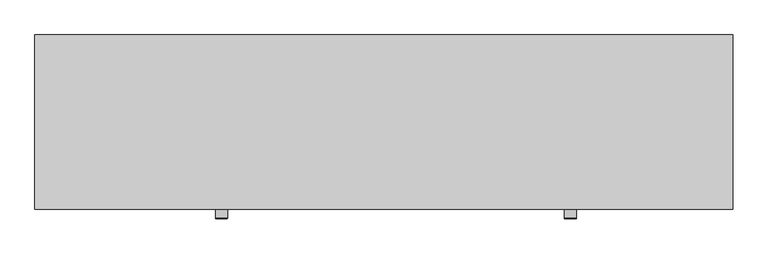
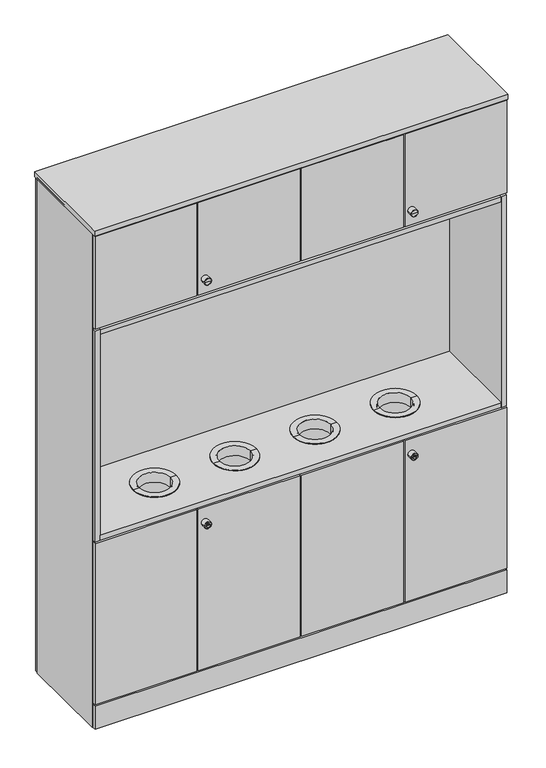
"""IFC4 building model written with IfcOpenShell, lengths in millimetres: furniture geometry, Furniture_Storage_Spacestor_SignatureStoragewall : Recyclepoint Double."""

from ifc_helpers import new_model, si_unit, point, frame, frame_2d, origin, origin_with_axes, place, context, project, spatial, polyline, circle_curve, ellipse_curve, trimmed, segment, composite_curve, outline, extrude, source, transform, mapped, element, save
from ifc_brep_helpers import plane_surface, cylinder_surface, revolved_surface, advanced_brep


def furniture_1b5e50f1(model_context):
    return source(origin(), model_context, "Body", "SolidModel", [
        extrude(outline(polyline([(1996.5, 459.0), (3.5, 459.0), (3.5, 477.0), (1996.5, 477.0), (1996.5, 459.0)])), origin_with_axes(), (0.0, 0.0, 1.0), 2518.0),
        extrude(outline(polyline([(1996.5, -18.0), (3.5, -18.0), (3.5, 0.0), (1996.5, 0.0), (1996.5, -18.0)])), origin_with_axes(), (0.0, 0.0, 1.0), 118.0),
        extrude(outline(polyline([(2000.0, -20.5), (0.0, -20.5), (0.0, 479.5), (2000.0, 479.5), (2000.0, -20.5)])), frame((0.0, 0.0, 2525.0), z_axis=(0.0, 0.0, 1.0), x_axis=(1.0, 0.0, 0.0)), (0.0, 0.0, 1.0), 25.5),
        extrude(outline(polyline([(2000.0, 0.0), (1989.0, 0.0), (1989.0, 459.0), (2000.0, 459.0), (2000.0, 0.0)])), origin_with_axes(), (0.0, 0.0, 1.0), 2532.5),
        extrude(outline(polyline([(11.0, 0.0), (0.0, 0.0), (0.0, 459.0), (11.0, 459.0), (11.0, 0.0)])), origin_with_axes(), (0.0, 0.0, 1.0), 2532.5),
        extrude(outline(polyline([(1989.0, 0.0), (11.0, 0.0), (11.0, 30.0), (1989.0, 30.0), (1989.0, 0.0)])), frame((0.0, 0.0, 942.5), z_axis=(0.0, 0.0, 1.0), x_axis=(1.0, 0.0, 0.0)), (0.0, 0.0, 1.0), 22.0),
        extrude(outline(polyline([(1003.5, -18.0), (1003.5, 0.0), (1496.5, 0.0), (1496.5, -18.0), (1003.5, -18.0)])), frame((0.0, 0.0, 125.0), z_axis=(0.0, 0.0, 1.0), x_axis=(1.0, 0.0, 0.0)), (0.0, 0.0, 1.0), 825.0),
        extrude(outline(polyline([(1996.5, -18.0), (1503.5, -18.0), (1503.5, 0.0), (1996.5, 0.0), (1996.5, -18.0)])), frame((0.0, 0.0, 125.0), z_axis=(0.0, 0.0, 1.0), x_axis=(1.0, 0.0, 0.0)), (0.0, 0.0, 1.0), 825.0),
        advanced_brep(
        [(1552.0, -45.3116344, 875.0), (1518.0, -45.3116344, 875.0), (1518.0, -18.0, 875.0), (1552.0, -18.0, 875.0), (1535.0, -18.0, 875.0), (1543.9747319, -46.3150077, 875.0), (1526.0252681, -46.3150077, 875.0), (1519.0033734, -46.3150077, 875.0), (1550.9966266, -46.3150077, 875.0), (1543.9747319, -47.4703043, 875.0), (1526.0252681, -47.4703043, 875.0), (1539.8245152, -47.4703043, 875.0), (1539.8245152, -47.4703043, 873.6366562), (1530.1754848, -47.4703043, 873.6366562), (1530.1754848, -47.4703043, 875.0), (1530.1754848, -47.4703043, 876.3633438), (1539.8245152, -47.4703043, 876.3633438), (1530.1754848, -27.8604291, 873.6366562), (1539.8245152, -27.8604291, 873.6366562), (1539.8245152, -27.8604291, 876.3633438), (1530.1754848, -27.8604291, 876.3633438)],
        [
            (0, 1, circle_curve(frame((1535.0, -45.3116344, 875.0), z_axis=(0.0, 1.0, 0.0), x_axis=(-1.0, 0.0, 0.0)), 17.0)),
            (1, 2),
            (2, 3, circle_curve(frame((1535.0, -18.0, 875.0), z_axis=(0.0, -1.0, 0.0), x_axis=(-1.0, 0.0, 0.0)), 17.0)),
            (3, 0),
            (1, 0, circle_curve(frame((1535.0, -45.3116344, 875.0), z_axis=(0.0, 1.0, 0.0), x_axis=(-1.0, 0.0, 0.0)), 17.0)),
            (3, 2, circle_curve(frame((1535.0, -18.0, 875.0), z_axis=(0.0, -1.0, 0.0), x_axis=(-1.0, 0.0, 0.0)), 17.0)),
            (2, 4),
            (4, 3),
            (5, 6, circle_curve(frame((1535.0, -46.3150077, 875.0), z_axis=(0.0, 1.0, 0.0), x_axis=(-1.0, 0.0, 0.0)), 8.9747319)),
            (6, 7),
            (7, 8, circle_curve(frame((1535.0, -46.3150077, 875.0), z_axis=(0.0, -1.0, 0.0), x_axis=(-1.0, 0.0, 0.0)), 15.9966266)),
            (8, 5),
            (6, 5, circle_curve(frame((1535.0, -46.3150077, 875.0), z_axis=(0.0, 1.0, 0.0), x_axis=(-1.0, 0.0, 0.0)), 8.9747319)),
            (8, 7, circle_curve(frame((1535.0, -46.3150077, 875.0), z_axis=(0.0, -1.0, 0.0), x_axis=(-1.0, 0.0, 0.0)), 15.9966266)),
            (0, 8, circle_curve(frame((1550.9966266, -45.3116344, 875.0), z_axis=(0.0, 0.0, -1.0), x_axis=(1.0, 0.0, 0.0)), 1.0033734)),
            (7, 1, circle_curve(frame((1519.0033734, -45.3116344, 875.0), z_axis=(0.0, 0.0, -1.0), x_axis=(-1.0, 0.0, 0.0)), 1.0033734)),
            (5, 9),
            (9, 10, circle_curve(frame((1535.0, -47.4703043, 875.0), z_axis=(0.0, 1.0, 0.0), x_axis=(-1.0, 0.0, 0.0)), 8.9747319)),
            (10, 6),
            (10, 9, circle_curve(frame((1535.0, -47.4703043, 875.0), z_axis=(0.0, 1.0, 0.0), x_axis=(-1.0, 0.0, 0.0)), 8.9747319)),
            (9, 11),
            (11, 12),
            (12, 13),
            (13, 14),
            (14, 10),
            (14, 15),
            (15, 16),
            (16, 11),
            (17, 18),
            (18, 19),
            (19, 20),
            (20, 17),
            (17, 13),
            (12, 18),
            (16, 19),
            (15, 20),
        ],
        [
            cylinder_surface(frame((1535.0, -2627.0581012, 875.0), z_axis=(0.0, -1.0, 0.0), x_axis=(-1.0, 0.0, 0.0)), 17.0),
            plane_surface(frame((1535.0, -18.0, 875.0), z_axis=(0.0, 1.0, 0.0), x_axis=(-1.0, 0.0, 0.0))),
            plane_surface(frame((1535.0, -46.3150077, 875.0), z_axis=(0.0, -1.0, 0.0), x_axis=(-1.0, 0.0, 0.0))),
            revolved_surface(trimmed(ellipse_curve(frame((1519.0033734, -45.3116344, 875.0), z_axis=(0.0, 0.0, 1.0), x_axis=(-1.0, 0.0, 0.0)), 1.0033734, 1.0033734), [point((1518.0, -45.3116344, 875.0))], [point((1519.0033734, -46.3150077, 875.0))], True, "CARTESIAN"), (1535.0, -2627.0581012, 875.0), (0.0, -1.0, 0.0)),
            cylinder_surface(frame((1535.0, -2627.0581012, 875.0), z_axis=(0.0, -1.0, 0.0), x_axis=(-1.0, 0.0, 0.0)), 8.9747319),
            plane_surface(frame((1535.0, -47.4703043, 875.0), z_axis=(0.0, -1.0, 0.0), x_axis=(-1.0, 0.0, 0.0))),
            plane_surface(frame((1539.4565249, -27.8604291, 873.6366562), z_axis=(0.0, -1.0, 0.0), x_axis=(-1.0, 0.0, 0.0))),
            plane_surface(frame((1530.1754848, -49.2046383, 873.6366562), z_axis=(0.0, 0.0, 1.0), x_axis=(0.0, 1.0, 0.0))),
            plane_surface(frame((1539.8245152, -49.2046383, 873.6366562), z_axis=(-1.0, 0.0, 0.0), x_axis=(0.0, 1.0, 0.0))),
            plane_surface(frame((1539.8245152, -49.2046383, 876.3633438), z_axis=(0.0, 0.0, -1.0), x_axis=(0.0, 1.0, 0.0))),
            plane_surface(frame((1530.1754848, -49.2046383, 876.3633438), z_axis=(1.0, 0.0, 0.0), x_axis=(0.0, 1.0, 0.0))),
        ],
        [
            (0, [[1, 2, 3, 4]]),
            (0, [[-2, 5, -4, 6]]),
            (1, [[-3, 7, 8]]),
            (1, [[-6, -8, -7]]),
            (2, [[9, 10, 11, 12]]),
            (2, [[-10, 13, -12, 14]]),
            (3, [[-1, 15, -11, 16]]),
            (3, [[-5, -16, -14, -15]]),
            (4, [[-9, 17, 18, 19]]),
            (4, [[-13, -19, 20, -17]]),
            (5, [[-18, 21, 22, 23, 24, 25]]),
            (5, [[-20, -25, 26, 27, 28, -21]]),
            (6, [[29, 30, 31, 32]]),
            (7, [[-29, 33, -23, 34]]),
            (8, [[-30, -34, -22, -28, 35]]),
            (9, [[-31, -35, -27, 36]]),
            (10, [[-32, -36, -26, -24, -33]]),
        ],
    ),
        advanced_brep(
        [(1552.0, -45.3116344, 2120.0), (1518.0, -45.3116344, 2120.0), (1518.0, -18.0, 2120.0), (1552.0, -18.0, 2120.0), (1535.0, -18.0, 2120.0), (1535.0, -46.3150077, 2120.0), (1519.0033734, -46.3150077, 2120.0), (1550.9966266, -46.3150077, 2120.0)],
        [
            (0, 1, circle_curve(frame((1535.0, -45.3116344, 2120.0), z_axis=(0.0, 1.0, 0.0), x_axis=(-1.0, 0.0, 0.0)), 17.0)),
            (1, 2),
            (2, 3, circle_curve(frame((1535.0, -18.0, 2120.0), z_axis=(0.0, -1.0, 0.0), x_axis=(-1.0, 0.0, 0.0)), 17.0)),
            (3, 0),
            (1, 0, circle_curve(frame((1535.0, -45.3116344, 2120.0), z_axis=(0.0, 1.0, 0.0), x_axis=(-1.0, 0.0, 0.0)), 17.0)),
            (3, 2, circle_curve(frame((1535.0, -18.0, 2120.0), z_axis=(0.0, -1.0, 0.0), x_axis=(-1.0, 0.0, 0.0)), 17.0)),
            (2, 4),
            (4, 3),
            (5, 6),
            (6, 7, circle_curve(frame((1535.0, -46.3150077, 2120.0), z_axis=(0.0, -1.0, 0.0), x_axis=(-1.0, 0.0, 0.0)), 15.9966266)),
            (7, 5),
            (7, 6, circle_curve(frame((1535.0, -46.3150077, 2120.0), z_axis=(0.0, -1.0, 0.0), x_axis=(-1.0, 0.0, 0.0)), 15.9966266)),
            (6, 1, circle_curve(frame((1519.0033734, -45.3116344, 2120.0), z_axis=(0.0, 0.0, -1.0), x_axis=(-1.0, 0.0, 0.0)), 1.0033734)),
            (0, 7, circle_curve(frame((1550.9966266, -45.3116344, 2120.0), z_axis=(0.0, 0.0, -1.0), x_axis=(1.0, 0.0, 0.0)), 1.0033734)),
        ],
        [
            cylinder_surface(frame((1535.0, -2627.0581012, 2120.0), z_axis=(0.0, -1.0, 0.0), x_axis=(-1.0, 0.0, 0.0)), 17.0),
            plane_surface(frame((1535.0, -18.0, 2120.0), z_axis=(0.0, 1.0, 0.0), x_axis=(-1.0, 0.0, 0.0))),
            plane_surface(frame((1535.0, -46.3150077, 2120.0), z_axis=(0.0, -1.0, 0.0), x_axis=(-1.0, 0.0, 0.0))),
            revolved_surface(trimmed(ellipse_curve(frame((1519.0033734, -45.3116344, 2120.0), z_axis=(0.0, 0.0, 1.0), x_axis=(-1.0, 0.0, 0.0)), 1.0033734, 1.0033734), [point((1518.0, -45.3116344, 2120.0))], [point((1519.0033734, -46.3150077, 2120.0))], True, "CARTESIAN"), (1535.0, -2627.0581012, 2120.0), (0.0, -1.0, 0.0)),
        ],
        [
            (0, [[1, 2, 3, 4]]),
            (0, [[5, -4, 6, -2]]),
            (1, [[-3, 7, 8]]),
            (1, [[-6, -8, -7]]),
            (2, [[9, 10, 11]]),
            (2, [[-11, 12, -9]]),
            (3, [[-10, 13, -1, 14]]),
            (3, [[-12, -14, -5, -13]]),
        ],
    ),
        extrude(outline(polyline([(1003.5, -18.0), (1003.5, 0.0), (1496.5, 0.0), (1496.5, -18.0), (1003.5, -18.0)])), frame((0.0, 0.0, 2045.0), z_axis=(0.0, 0.0, 1.0), x_axis=(1.0, 0.0, 0.0)), (0.0, 0.0, 1.0), 473.0),
        extrude(outline(polyline([(1996.5, -18.0), (1503.5, -18.0), (1503.5, 0.0), (1996.5, 0.0), (1996.5, -18.0)])), frame((0.0, 0.0, 2045.0), z_axis=(0.0, 0.0, 1.0), x_axis=(1.0, 0.0, 0.0)), (0.0, 0.0, 1.0), 473.0),
        extrude(outline(polyline([(1989.0, 0.0), (11.0, 0.0), (11.0, 459.0), (1989.0, 459.0), (1989.0, 0.0)])), frame((0.0, 0.0, 110.5), z_axis=(0.0, 0.0, 1.0), x_axis=(1.0, 0.0, 0.0)), (0.0, 0.0, 1.0), 22.0),
        extrude(outline(polyline([(1989.0, 0.0), (11.0, 0.0), (11.0, 459.0), (1989.0, 459.0), (1989.0, 0.0)])), frame((0.0, 0.0, 2510.0), z_axis=(0.0, 0.0, 1.0), x_axis=(1.0, 0.0, 0.0)), (0.0, 0.0, 1.0), 22.0),
        extrude(outline(polyline([(1989.0, 0.0), (11.0, 0.0), (11.0, 459.0), (1989.0, 459.0), (1989.0, 0.0)])), frame((0.0, 0.0, 2030.5), z_axis=(0.0, 0.0, 1.0), x_axis=(1.0, 0.0, 0.0)), (0.0, 0.0, 1.0), 22.0),
        advanced_brep(
        [(552.0, -45.3116344, 2120.0), (518.0, -45.3116344, 2120.0), (518.0, -18.0, 2120.0), (552.0, -18.0, 2120.0), (535.0, -18.0, 2120.0), (535.0, -46.3150077, 2120.0), (519.0033734, -46.3150077, 2120.0), (550.9966266, -46.3150077, 2120.0)],
        [
            (0, 1, circle_curve(frame((535.0, -45.3116344, 2120.0), z_axis=(0.0, 1.0, 0.0), x_axis=(-1.0, 0.0, 0.0)), 17.0)),
            (1, 2),
            (2, 3, circle_curve(frame((535.0, -18.0, 2120.0), z_axis=(0.0, -1.0, 0.0), x_axis=(-1.0, 0.0, 0.0)), 17.0)),
            (3, 0),
            (1, 0, circle_curve(frame((535.0, -45.3116344, 2120.0), z_axis=(0.0, 1.0, 0.0), x_axis=(-1.0, 0.0, 0.0)), 17.0)),
            (3, 2, circle_curve(frame((535.0, -18.0, 2120.0), z_axis=(0.0, -1.0, 0.0), x_axis=(-1.0, 0.0, 0.0)), 17.0)),
            (2, 4),
            (4, 3),
            (5, 6),
            (6, 7, circle_curve(frame((535.0, -46.3150077, 2120.0), z_axis=(0.0, -1.0, 0.0), x_axis=(-1.0, 0.0, 0.0)), 15.9966266)),
            (7, 5),
            (7, 6, circle_curve(frame((535.0, -46.3150077, 2120.0), z_axis=(0.0, -1.0, 0.0), x_axis=(-1.0, 0.0, 0.0)), 15.9966266)),
            (6, 1, circle_curve(frame((519.0033734, -45.3116344, 2120.0), z_axis=(0.0, 0.0, -1.0), x_axis=(-1.0, 0.0, 0.0)), 1.0033734)),
            (0, 7, circle_curve(frame((550.9966266, -45.3116344, 2120.0), z_axis=(0.0, 0.0, -1.0), x_axis=(1.0, 0.0, 0.0)), 1.0033734)),
        ],
        [
            cylinder_surface(frame((535.0, -2627.0581012, 2120.0), z_axis=(0.0, -1.0, 0.0), x_axis=(-1.0, 0.0, 0.0)), 17.0),
            plane_surface(frame((535.0, -18.0, 2120.0), z_axis=(0.0, 1.0, 0.0), x_axis=(-1.0, 0.0, 0.0))),
            plane_surface(frame((535.0, -46.3150077, 2120.0), z_axis=(0.0, -1.0, 0.0), x_axis=(-1.0, 0.0, 0.0))),
            revolved_surface(trimmed(ellipse_curve(frame((519.0033734, -45.3116344, 2120.0), z_axis=(0.0, 0.0, 1.0), x_axis=(-1.0, 0.0, 0.0)), 1.0033734, 1.0033734), [point((518.0, -45.3116344, 2120.0))], [point((519.0033734, -46.3150077, 2120.0))], True, "CARTESIAN"), (535.0, -2627.0581012, 2120.0), (0.0, -1.0, 0.0)),
        ],
        [
            (0, [[1, 2, 3, 4]]),
            (0, [[5, -4, 6, -2]]),
            (1, [[-3, 7, 8]]),
            (1, [[-6, -8, -7]]),
            (2, [[9, 10, 11]]),
            (2, [[-11, 12, -9]]),
            (3, [[-10, 13, -1, 14]]),
            (3, [[-12, -14, -5, -13]]),
        ],
    ),
        advanced_brep(
        [(910.9, 199.0, 982.5), (700.9, 199.0, 982.5), (700.9, 199.0, 985.5), (910.9, 199.0, 985.5), (883.9, 199.0, 982.5), (727.9, 199.0, 982.5), (883.9, 199.0, 935.5), (727.9, 199.0, 935.5), (880.9, 199.0, 935.5), (730.9, 199.0, 935.5), (880.9, 199.0, 985.5), (730.9, 199.0, 985.5)],
        [
            (0, 1, circle_curve(frame((805.9, 199.0, 982.5), z_axis=(0.0, 0.0, 1.0), x_axis=(-1.0, 0.0, 0.0)), 105.0)),
            (1, 2),
            (2, 3, circle_curve(frame((805.9, 199.0, 985.5), z_axis=(0.0, 0.0, -1.0), x_axis=(-1.0, 0.0, 0.0)), 105.0)),
            (3, 0),
            (1, 0, circle_curve(frame((805.9, 199.0, 982.5), z_axis=(0.0, 0.0, 1.0), x_axis=(-1.0, 0.0, 0.0)), 105.0)),
            (3, 2, circle_curve(frame((805.9, 199.0, 985.5), z_axis=(0.0, 0.0, -1.0), x_axis=(-1.0, 0.0, 0.0)), 105.0)),
            (4, 5, circle_curve(frame((805.9, 199.0, 982.5), z_axis=(0.0, 0.0, 1.0), x_axis=(-1.0, 0.0, 0.0)), 78.0)),
            (5, 1),
            (0, 4),
            (5, 4, circle_curve(frame((805.9, 199.0, 982.5), z_axis=(0.0, 0.0, 1.0), x_axis=(-1.0, 0.0, 0.0)), 78.0)),
            (6, 7, circle_curve(frame((805.9, 199.0, 935.5), z_axis=(0.0, 0.0, 1.0), x_axis=(-1.0, 0.0, 0.0)), 78.0)),
            (7, 5),
            (4, 6),
            (7, 6, circle_curve(frame((805.9, 199.0, 935.5), z_axis=(0.0, 0.0, 1.0), x_axis=(-1.0, 0.0, 0.0)), 78.0)),
            (8, 9, circle_curve(frame((805.9, 199.0, 935.5), z_axis=(0.0, 0.0, 1.0), x_axis=(-1.0, 0.0, 0.0)), 75.0)),
            (9, 7),
            (6, 8),
            (9, 8, circle_curve(frame((805.9, 199.0, 935.5), z_axis=(0.0, 0.0, 1.0), x_axis=(-1.0, 0.0, 0.0)), 75.0)),
            (10, 11, circle_curve(frame((805.9, 199.0, 985.5), z_axis=(0.0, 0.0, 1.0), x_axis=(-1.0, 0.0, 0.0)), 75.0)),
            (11, 9),
            (8, 10),
            (11, 10, circle_curve(frame((805.9, 199.0, 985.5), z_axis=(0.0, 0.0, 1.0), x_axis=(-1.0, 0.0, 0.0)), 75.0)),
            (2, 11),
            (10, 3),
        ],
        [
            cylinder_surface(frame((805.9, 199.0, 435.5), z_axis=(0.0, 0.0, -1.0), x_axis=(-1.0, 0.0, 0.0)), 105.0),
            plane_surface(frame((805.9, 199.0, 982.5), z_axis=(0.0, 0.0, -1.0), x_axis=(-1.0, 0.0, 0.0))),
            cylinder_surface(frame((805.9, 199.0, 435.5), z_axis=(0.0, 0.0, -1.0), x_axis=(-1.0, 0.0, 0.0)), 78.0),
            plane_surface(frame((805.9, 199.0, 935.5), z_axis=(0.0, 0.0, -1.0), x_axis=(-1.0, 0.0, 0.0))),
            revolved_surface(polyline([(730.9, 199.0, 935.5), (730.9, 199.0, 985.5)]), (805.9, 199.0, 435.5), (0.0, 0.0, -1.0)),
            plane_surface(frame((805.9, 199.0, 985.5), z_axis=(0.0, 0.0, 1.0), x_axis=(-1.0, 0.0, 0.0))),
        ],
        [
            (0, [[1, 2, 3, 4]]),
            (0, [[5, -4, 6, -2]]),
            (1, [[7, 8, -1, 9]]),
            (1, [[10, -9, -5, -8]]),
            (2, [[11, 12, -7, 13]]),
            (2, [[14, -13, -10, -12]]),
            (3, [[15, 16, -11, 17]]),
            (3, [[18, -17, -14, -16]]),
            (4, [[19, 20, -15, 21]]),
            (4, [[22, -21, -18, -20]]),
            (5, [[-3, 23, -19, 24]]),
            (5, [[-6, -24, -22, -23]]),
        ],
    ),
        advanced_brep(
        [(1299.1, 199.0, 982.5), (1089.1, 199.0, 982.5), (1089.1, 199.0, 985.5), (1299.1, 199.0, 985.5), (1272.1, 199.0, 982.5), (1116.1, 199.0, 982.5), (1272.1, 199.0, 935.5), (1116.1, 199.0, 935.5), (1269.1, 199.0, 935.5), (1119.1, 199.0, 935.5), (1269.1, 199.0, 985.5), (1119.1, 199.0, 985.5)],
        [
            (0, 1, circle_curve(frame((1194.1, 199.0, 982.5), z_axis=(0.0, 0.0, 1.0), x_axis=(-1.0, 0.0, 0.0)), 105.0)),
            (1, 2),
            (2, 3, circle_curve(frame((1194.1, 199.0, 985.5), z_axis=(0.0, 0.0, -1.0), x_axis=(-1.0, 0.0, 0.0)), 105.0)),
            (3, 0),
            (1, 0, circle_curve(frame((1194.1, 199.0, 982.5), z_axis=(0.0, 0.0, 1.0), x_axis=(-1.0, 0.0, 0.0)), 105.0)),
            (3, 2, circle_curve(frame((1194.1, 199.0, 985.5), z_axis=(0.0, 0.0, -1.0), x_axis=(-1.0, 0.0, 0.0)), 105.0)),
            (4, 5, circle_curve(frame((1194.1, 199.0, 982.5), z_axis=(0.0, 0.0, 1.0), x_axis=(-1.0, 0.0, 0.0)), 78.0)),
            (5, 1),
            (0, 4),
            (5, 4, circle_curve(frame((1194.1, 199.0, 982.5), z_axis=(0.0, 0.0, 1.0), x_axis=(-1.0, 0.0, 0.0)), 78.0)),
            (6, 7, circle_curve(frame((1194.1, 199.0, 935.5), z_axis=(0.0, 0.0, 1.0), x_axis=(-1.0, 0.0, 0.0)), 78.0)),
            (7, 5),
            (4, 6),
            (7, 6, circle_curve(frame((1194.1, 199.0, 935.5), z_axis=(0.0, 0.0, 1.0), x_axis=(-1.0, 0.0, 0.0)), 78.0)),
            (8, 9, circle_curve(frame((1194.1, 199.0, 935.5), z_axis=(0.0, 0.0, 1.0), x_axis=(-1.0, 0.0, 0.0)), 75.0)),
            (9, 7),
            (6, 8),
            (9, 8, circle_curve(frame((1194.1, 199.0, 935.5), z_axis=(0.0, 0.0, 1.0), x_axis=(-1.0, 0.0, 0.0)), 75.0)),
            (10, 11, circle_curve(frame((1194.1, 199.0, 985.5), z_axis=(0.0, 0.0, 1.0), x_axis=(-1.0, 0.0, 0.0)), 75.0)),
            (11, 9),
            (8, 10),
            (11, 10, circle_curve(frame((1194.1, 199.0, 985.5), z_axis=(0.0, 0.0, 1.0), x_axis=(-1.0, 0.0, 0.0)), 75.0)),
            (2, 11),
            (10, 3),
        ],
        [
            cylinder_surface(frame((1194.1, 199.0, 435.5), z_axis=(0.0, 0.0, -1.0), x_axis=(-1.0, 0.0, 0.0)), 105.0),
            plane_surface(frame((1194.1, 199.0, 982.5), z_axis=(0.0, 0.0, -1.0), x_axis=(-1.0, 0.0, 0.0))),
            cylinder_surface(frame((1194.1, 199.0, 435.5), z_axis=(0.0, 0.0, -1.0), x_axis=(-1.0, 0.0, 0.0)), 78.0),
            plane_surface(frame((1194.1, 199.0, 935.5), z_axis=(0.0, 0.0, -1.0), x_axis=(-1.0, 0.0, 0.0))),
            revolved_surface(polyline([(1119.1, 199.0, 935.5), (1119.1, 199.0, 985.5)]), (1194.1, 199.0, 435.5), (0.0, 0.0, -1.0)),
            plane_surface(frame((1194.1, 199.0, 985.5), z_axis=(0.0, 0.0, 1.0), x_axis=(-1.0, 0.0, 0.0))),
        ],
        [
            (0, [[1, 2, 3, 4]]),
            (0, [[5, -4, 6, -2]]),
            (1, [[7, 8, -1, 9]]),
            (1, [[10, -9, -5, -8]]),
            (2, [[11, 12, -7, 13]]),
            (2, [[14, -13, -10, -12]]),
            (3, [[15, 16, -11, 17]]),
            (3, [[18, -17, -14, -16]]),
            (4, [[19, 20, -15, 21]]),
            (4, [[22, -21, -18, -20]]),
            (5, [[-3, 23, -19, 24]]),
            (5, [[-6, -24, -22, -23]]),
        ],
    ),
        advanced_brep(
        [(1687.3, 199.0, 982.5), (1477.3, 199.0, 982.5), (1477.3, 199.0, 985.5), (1687.3, 199.0, 985.5), (1660.3, 199.0, 982.5), (1504.3, 199.0, 982.5), (1660.3, 199.0, 935.5), (1504.3, 199.0, 935.5), (1657.3, 199.0, 935.5), (1507.3, 199.0, 935.5), (1657.3, 199.0, 985.5), (1507.3, 199.0, 985.5)],
        [
            (0, 1, circle_curve(frame((1582.3, 199.0, 982.5), z_axis=(0.0, 0.0, 1.0), x_axis=(-1.0, 0.0, 0.0)), 105.0)),
            (1, 2),
            (2, 3, circle_curve(frame((1582.3, 199.0, 985.5), z_axis=(0.0, 0.0, -1.0), x_axis=(-1.0, 0.0, 0.0)), 105.0)),
            (3, 0),
            (1, 0, circle_curve(frame((1582.3, 199.0, 982.5), z_axis=(0.0, 0.0, 1.0), x_axis=(-1.0, 0.0, 0.0)), 105.0)),
            (3, 2, circle_curve(frame((1582.3, 199.0, 985.5), z_axis=(0.0, 0.0, -1.0), x_axis=(-1.0, 0.0, 0.0)), 105.0)),
            (4, 5, circle_curve(frame((1582.3, 199.0, 982.5), z_axis=(0.0, 0.0, 1.0), x_axis=(-1.0, 0.0, 0.0)), 78.0)),
            (5, 1),
            (0, 4),
            (5, 4, circle_curve(frame((1582.3, 199.0, 982.5), z_axis=(0.0, 0.0, 1.0), x_axis=(-1.0, 0.0, 0.0)), 78.0)),
            (6, 7, circle_curve(frame((1582.3, 199.0, 935.5), z_axis=(0.0, 0.0, 1.0), x_axis=(-1.0, 0.0, 0.0)), 78.0)),
            (7, 5),
            (4, 6),
            (7, 6, circle_curve(frame((1582.3, 199.0, 935.5), z_axis=(0.0, 0.0, 1.0), x_axis=(-1.0, 0.0, 0.0)), 78.0)),
            (8, 9, circle_curve(frame((1582.3, 199.0, 935.5), z_axis=(0.0, 0.0, 1.0), x_axis=(-1.0, 0.0, 0.0)), 75.0)),
            (9, 7),
            (6, 8),
            (9, 8, circle_curve(frame((1582.3, 199.0, 935.5), z_axis=(0.0, 0.0, 1.0), x_axis=(-1.0, 0.0, 0.0)), 75.0)),
            (10, 11, circle_curve(frame((1582.3, 199.0, 985.5), z_axis=(0.0, 0.0, 1.0), x_axis=(-1.0, 0.0, 0.0)), 75.0)),
            (11, 9),
            (8, 10),
            (11, 10, circle_curve(frame((1582.3, 199.0, 985.5), z_axis=(0.0, 0.0, 1.0), x_axis=(-1.0, 0.0, 0.0)), 75.0)),
            (2, 11),
            (10, 3),
        ],
        [
            cylinder_surface(frame((1582.3, 199.0, 435.5), z_axis=(0.0, 0.0, -1.0), x_axis=(-1.0, 0.0, 0.0)), 105.0),
            plane_surface(frame((1582.3, 199.0, 982.5), z_axis=(0.0, 0.0, -1.0), x_axis=(-1.0, 0.0, 0.0))),
            cylinder_surface(frame((1582.3, 199.0, 435.5), z_axis=(0.0, 0.0, -1.0), x_axis=(-1.0, 0.0, 0.0)), 78.0),
            plane_surface(frame((1582.3, 199.0, 935.5), z_axis=(0.0, 0.0, -1.0), x_axis=(-1.0, 0.0, 0.0))),
            revolved_surface(polyline([(1507.3, 199.0, 935.5), (1507.3, 199.0, 985.5)]), (1582.3, 199.0, 435.5), (0.0, 0.0, -1.0)),
            plane_surface(frame((1582.3, 199.0, 985.5), z_axis=(0.0, 0.0, 1.0), x_axis=(-1.0, 0.0, 0.0))),
        ],
        [
            (0, [[1, 2, 3, 4]]),
            (0, [[5, -4, 6, -2]]),
            (1, [[7, 8, -1, 9]]),
            (1, [[10, -9, -5, -8]]),
            (2, [[11, 12, -7, 13]]),
            (2, [[14, -13, -10, -12]]),
            (3, [[15, 16, -11, 17]]),
            (3, [[18, -17, -14, -16]]),
            (4, [[19, 20, -15, 21]]),
            (4, [[22, -21, -18, -20]]),
            (5, [[-3, 23, -19, 24]]),
            (5, [[-6, -24, -22, -23]]),
        ],
    ),
        advanced_brep(
        [(522.7, 199.0, 982.5), (312.7, 199.0, 982.5), (312.7, 199.0, 985.5), (522.7, 199.0, 985.5), (495.7, 199.0, 982.5), (339.7, 199.0, 982.5), (495.7, 199.0, 935.5), (339.7, 199.0, 935.5), (492.7, 199.0, 935.5), (342.7, 199.0, 935.5), (492.7, 199.0, 985.5), (342.7, 199.0, 985.5)],
        [
            (0, 1, circle_curve(frame((417.7, 199.0, 982.5), z_axis=(0.0, 0.0, 1.0), x_axis=(-1.0, 0.0, 0.0)), 105.0)),
            (1, 2),
            (2, 3, circle_curve(frame((417.7, 199.0, 985.5), z_axis=(0.0, 0.0, -1.0), x_axis=(-1.0, 0.0, 0.0)), 105.0)),
            (3, 0),
            (1, 0, circle_curve(frame((417.7, 199.0, 982.5), z_axis=(0.0, 0.0, 1.0), x_axis=(-1.0, 0.0, 0.0)), 105.0)),
            (3, 2, circle_curve(frame((417.7, 199.0, 985.5), z_axis=(0.0, 0.0, -1.0), x_axis=(-1.0, 0.0, 0.0)), 105.0)),
            (4, 5, circle_curve(frame((417.7, 199.0, 982.5), z_axis=(0.0, 0.0, 1.0), x_axis=(-1.0, 0.0, 0.0)), 78.0)),
            (5, 1),
            (0, 4),
            (5, 4, circle_curve(frame((417.7, 199.0, 982.5), z_axis=(0.0, 0.0, 1.0), x_axis=(-1.0, 0.0, 0.0)), 78.0)),
            (6, 7, circle_curve(frame((417.7, 199.0, 935.5), z_axis=(0.0, 0.0, 1.0), x_axis=(-1.0, 0.0, 0.0)), 78.0)),
            (7, 5),
            (4, 6),
            (7, 6, circle_curve(frame((417.7, 199.0, 935.5), z_axis=(0.0, 0.0, 1.0), x_axis=(-1.0, 0.0, 0.0)), 78.0)),
            (8, 9, circle_curve(frame((417.7, 199.0, 935.5), z_axis=(0.0, 0.0, 1.0), x_axis=(-1.0, 0.0, 0.0)), 75.0)),
            (9, 7),
            (6, 8),
            (9, 8, circle_curve(frame((417.7, 199.0, 935.5), z_axis=(0.0, 0.0, 1.0), x_axis=(-1.0, 0.0, 0.0)), 75.0)),
            (10, 11, circle_curve(frame((417.7, 199.0, 985.5), z_axis=(0.0, 0.0, 1.0), x_axis=(-1.0, 0.0, 0.0)), 75.0)),
            (11, 9),
            (8, 10),
            (11, 10, circle_curve(frame((417.7, 199.0, 985.5), z_axis=(0.0, 0.0, 1.0), x_axis=(-1.0, 0.0, 0.0)), 75.0)),
            (2, 11),
            (10, 3),
        ],
        [
            cylinder_surface(frame((417.7, 199.0, 435.5), z_axis=(0.0, 0.0, -1.0), x_axis=(-1.0, 0.0, 0.0)), 105.0),
            plane_surface(frame((417.7, 199.0, 982.5), z_axis=(0.0, 0.0, -1.0), x_axis=(-1.0, 0.0, 0.0))),
            cylinder_surface(frame((417.7, 199.0, 435.5), z_axis=(0.0, 0.0, -1.0), x_axis=(-1.0, 0.0, 0.0)), 78.0),
            plane_surface(frame((417.7, 199.0, 935.5), z_axis=(0.0, 0.0, -1.0), x_axis=(-1.0, 0.0, 0.0))),
            revolved_surface(polyline([(342.7, 199.0, 935.5), (342.7, 199.0, 985.5)]), (417.7, 199.0, 435.5), (0.0, 0.0, -1.0)),
            plane_surface(frame((417.7, 199.0, 985.5), z_axis=(0.0, 0.0, 1.0), x_axis=(-1.0, 0.0, 0.0))),
        ],
        [
            (0, [[1, 2, 3, 4]]),
            (0, [[5, -4, 6, -2]]),
            (1, [[7, 8, -1, 9]]),
            (1, [[10, -9, -5, -8]]),
            (2, [[11, 12, -7, 13]]),
            (2, [[14, -13, -10, -12]]),
            (3, [[15, 16, -11, 17]]),
            (3, [[18, -17, -14, -16]]),
            (4, [[19, 20, -15, 21]]),
            (4, [[22, -21, -18, -20]]),
            (5, [[-3, 23, -19, 24]]),
            (5, [[-6, -24, -22, -23]]),
        ],
    ),
        extrude(outline(polyline([(29.5, -18.0), (29.5, 416.0), (1970.5, 416.0), (1970.5, -18.0), (29.5, -18.0)]), holes=[composite_curve([segment(trimmed(circle_curve(frame_2d((417.7, 199.0)), 78.0), [point((339.7, 199.0))], [point((495.7, 199.0))], True, "CARTESIAN"), True, "CONTINUOUS"), segment(trimmed(circle_curve(frame_2d((417.7, 199.0)), 78.0), [point((495.7, 199.0))], [point((339.7, 199.0))], True, "CARTESIAN"), True, "CONTINUOUS")], self_intersect=False), composite_curve([segment(trimmed(circle_curve(frame_2d((805.9, 199.0)), 78.0), [point((727.9, 199.0))], [point((883.9, 199.0))], True, "CARTESIAN"), True, "CONTINUOUS"), segment(trimmed(circle_curve(frame_2d((805.9, 199.0)), 78.0), [point((883.9, 199.0))], [point((727.9, 199.0))], True, "CARTESIAN"), True, "CONTINUOUS")], self_intersect=False), composite_curve([segment(trimmed(circle_curve(frame_2d((1194.1, 199.0)), 78.0), [point((1116.1, 199.0))], [point((1272.1, 199.0))], True, "CARTESIAN"), True, "CONTINUOUS"), segment(trimmed(circle_curve(frame_2d((1194.1, 199.0)), 78.0), [point((1272.1, 199.0))], [point((1116.1, 199.0))], True, "CARTESIAN"), True, "CONTINUOUS")], self_intersect=False), composite_curve([segment(trimmed(circle_curve(frame_2d((1582.3, 199.0)), 78.0), [point((1504.3, 199.0))], [point((1660.3, 199.0))], True, "CARTESIAN"), True, "CONTINUOUS"), segment(trimmed(circle_curve(frame_2d((1582.3, 199.0)), 78.0), [point((1660.3, 199.0))], [point((1504.3, 199.0))], True, "CARTESIAN"), True, "CONTINUOUS")], self_intersect=False)]), frame((0.0, 0.0, 957.5), z_axis=(0.0, 0.0, 1.0), x_axis=(1.0, 0.0, 0.0)), (0.0, 0.0, 1.0), 25.0),
        extrude(outline(polyline([(29.5, -18.0), (4.5, -18.0), (4.5, 416.0), (29.5, 416.0), (29.5, -18.0)])), frame((0.0, 0.0, 957.0), z_axis=(0.0, 0.0, 1.0), x_axis=(1.0, 0.0, 0.0)), (0.0, 0.0, 1.0), 1079.0),
        extrude(outline(polyline([(1995.5, -18.0), (1970.5, -18.0), (1970.5, 416.0), (1995.5, 416.0), (1995.5, -18.0)])), frame((0.0, 0.0, 957.0), z_axis=(0.0, 0.0, 1.0), x_axis=(1.0, 0.0, 0.0)), (0.0, 0.0, 1.0), 1079.0),
        extrude(outline(polyline([(1995.5, 416.0), (4.5, 416.0), (4.5, 434.0), (1995.5, 434.0), (1995.5, 416.0)])), frame((0.0, 0.0, 957.0), z_axis=(0.0, 0.0, 1.0), x_axis=(1.0, 0.0, 0.0)), (0.0, 0.0, 1.0), 1079.0),
        extrude(outline(polyline([(1970.5, -18.0), (29.5, -18.0), (29.5, 416.0), (1970.5, 416.0), (1970.5, -18.0)])), frame((0.0, 0.0, 2010.5), z_axis=(0.0, 0.0, 1.0), x_axis=(1.0, 0.0, 0.0)), (0.0, 0.0, 1.0), 25.0),
        extrude(outline(polyline([(3.5, -18.0), (3.5, 0.0), (496.5, 0.0), (496.5, -18.0), (3.5, -18.0)])), frame((0.0, 0.0, 125.0), z_axis=(0.0, 0.0, 1.0), x_axis=(1.0, 0.0, 0.0)), (0.0, 0.0, 1.0), 825.0),
        extrude(outline(polyline([(996.5, -18.0), (503.5, -18.0), (503.5, 0.0), (996.5, 0.0), (996.5, -18.0)])), frame((0.0, 0.0, 125.0), z_axis=(0.0, 0.0, 1.0), x_axis=(1.0, 0.0, 0.0)), (0.0, 0.0, 1.0), 825.0),
        advanced_brep(
        [(552.0, -45.3116344, 875.0), (518.0, -45.3116344, 875.0), (518.0, -18.0, 875.0), (552.0, -18.0, 875.0), (535.0, -18.0, 875.0), (543.9747319, -46.3150077, 875.0), (526.0252681, -46.3150077, 875.0), (519.0033734, -46.3150077, 875.0), (550.9966266, -46.3150077, 875.0), (543.9747319, -47.4703043, 875.0), (526.0252681, -47.4703043, 875.0), (539.8245152, -47.4703043, 875.0), (539.8245152, -47.4703043, 873.6366562), (530.1754848, -47.4703043, 873.6366562), (530.1754848, -47.4703043, 875.0), (530.1754848, -47.4703043, 876.3633438), (539.8245152, -47.4703043, 876.3633438), (530.1754848, -27.8604291, 873.6366562), (539.8245152, -27.8604291, 873.6366562), (539.8245152, -27.8604291, 876.3633438), (530.1754848, -27.8604291, 876.3633438)],
        [
            (0, 1, circle_curve(frame((535.0, -45.3116344, 875.0), z_axis=(0.0, 1.0, 0.0), x_axis=(-1.0, 0.0, 0.0)), 17.0)),
            (1, 2),
            (2, 3, circle_curve(frame((535.0, -18.0, 875.0), z_axis=(0.0, -1.0, 0.0), x_axis=(-1.0, 0.0, 0.0)), 17.0)),
            (3, 0),
            (1, 0, circle_curve(frame((535.0, -45.3116344, 875.0), z_axis=(0.0, 1.0, 0.0), x_axis=(-1.0, 0.0, 0.0)), 17.0)),
            (3, 2, circle_curve(frame((535.0, -18.0, 875.0), z_axis=(0.0, -1.0, 0.0), x_axis=(-1.0, 0.0, 0.0)), 17.0)),
            (2, 4),
            (4, 3),
            (5, 6, circle_curve(frame((535.0, -46.3150077, 875.0), z_axis=(0.0, 1.0, 0.0), x_axis=(-1.0, 0.0, 0.0)), 8.9747319)),
            (6, 7),
            (7, 8, circle_curve(frame((535.0, -46.3150077, 875.0), z_axis=(0.0, -1.0, 0.0), x_axis=(-1.0, 0.0, 0.0)), 15.9966266)),
            (8, 5),
            (6, 5, circle_curve(frame((535.0, -46.3150077, 875.0), z_axis=(0.0, 1.0, 0.0), x_axis=(-1.0, 0.0, 0.0)), 8.9747319)),
            (8, 7, circle_curve(frame((535.0, -46.3150077, 875.0), z_axis=(0.0, -1.0, 0.0), x_axis=(-1.0, 0.0, 0.0)), 15.9966266)),
            (0, 8, circle_curve(frame((550.9966266, -45.3116344, 875.0), z_axis=(0.0, 0.0, -1.0), x_axis=(1.0, 0.0, 0.0)), 1.0033734)),
            (7, 1, circle_curve(frame((519.0033734, -45.3116344, 875.0), z_axis=(0.0, 0.0, -1.0), x_axis=(-1.0, 0.0, 0.0)), 1.0033734)),
            (5, 9),
            (9, 10, circle_curve(frame((535.0, -47.4703043, 875.0), z_axis=(0.0, 1.0, 0.0), x_axis=(-1.0, 0.0, 0.0)), 8.9747319)),
            (10, 6),
            (10, 9, circle_curve(frame((535.0, -47.4703043, 875.0), z_axis=(0.0, 1.0, 0.0), x_axis=(-1.0, 0.0, 0.0)), 8.9747319)),
            (9, 11),
            (11, 12),
            (12, 13),
            (13, 14),
            (14, 10),
            (14, 15),
            (15, 16),
            (16, 11),
            (17, 18),
            (18, 19),
            (19, 20),
            (20, 17),
            (17, 13),
            (12, 18),
            (16, 19),
            (15, 20),
        ],
        [
            cylinder_surface(frame((535.0, -2627.0581012, 875.0), z_axis=(0.0, -1.0, 0.0), x_axis=(-1.0, 0.0, 0.0)), 17.0),
            plane_surface(frame((535.0, -18.0, 875.0), z_axis=(0.0, 1.0, 0.0), x_axis=(-1.0, 0.0, 0.0))),
            plane_surface(frame((535.0, -46.3150077, 875.0), z_axis=(0.0, -1.0, 0.0), x_axis=(-1.0, 0.0, 0.0))),
            revolved_surface(trimmed(ellipse_curve(frame((519.0033734, -45.3116344, 875.0), z_axis=(0.0, 0.0, 1.0), x_axis=(-1.0, 0.0, 0.0)), 1.0033734, 1.0033734), [point((518.0, -45.3116344, 875.0))], [point((519.0033734, -46.3150077, 875.0))], True, "CARTESIAN"), (535.0, -2627.0581012, 875.0), (0.0, -1.0, 0.0)),
            cylinder_surface(frame((535.0, -2627.0581012, 875.0), z_axis=(0.0, -1.0, 0.0), x_axis=(-1.0, 0.0, 0.0)), 8.9747319),
            plane_surface(frame((535.0, -47.4703043, 875.0), z_axis=(0.0, -1.0, 0.0), x_axis=(-1.0, 0.0, 0.0))),
            plane_surface(frame((539.4565249, -27.8604291, 873.6366562), z_axis=(0.0, -1.0, 0.0), x_axis=(-1.0, 0.0, 0.0))),
            plane_surface(frame((530.1754848, -49.2046383, 873.6366562), z_axis=(0.0, 0.0, 1.0), x_axis=(0.0, 1.0, 0.0))),
            plane_surface(frame((539.8245152, -49.2046383, 873.6366562), z_axis=(-1.0, 0.0, 0.0), x_axis=(0.0, 1.0, 0.0))),
            plane_surface(frame((539.8245152, -49.2046383, 876.3633438), z_axis=(0.0, 0.0, -1.0), x_axis=(0.0, 1.0, 0.0))),
            plane_surface(frame((530.1754848, -49.2046383, 876.3633438), z_axis=(1.0, 0.0, 0.0), x_axis=(0.0, 1.0, 0.0))),
        ],
        [
            (0, [[1, 2, 3, 4]]),
            (0, [[-2, 5, -4, 6]]),
            (1, [[-3, 7, 8]]),
            (1, [[-6, -8, -7]]),
            (2, [[9, 10, 11, 12]]),
            (2, [[-10, 13, -12, 14]]),
            (3, [[-1, 15, -11, 16]]),
            (3, [[-5, -16, -14, -15]]),
            (4, [[-9, 17, 18, 19]]),
            (4, [[-13, -19, 20, -17]]),
            (5, [[-18, 21, 22, 23, 24, 25]]),
            (5, [[-20, -25, 26, 27, 28, -21]]),
            (6, [[29, 30, 31, 32]]),
            (7, [[-29, 33, -23, 34]]),
            (8, [[-30, -34, -22, -28, 35]]),
            (9, [[-31, -35, -27, 36]]),
            (10, [[-32, -36, -26, -24, -33]]),
        ],
    ),
        extrude(outline(polyline([(3.5, -18.0), (3.5, 0.0), (496.5, 0.0), (496.5, -18.0), (3.5, -18.0)])), frame((0.0, 0.0, 2045.0), z_axis=(0.0, 0.0, 1.0), x_axis=(1.0, 0.0, 0.0)), (0.0, 0.0, 1.0), 473.0),
        extrude(outline(polyline([(996.5, -18.0), (503.5, -18.0), (503.5, 0.0), (996.5, 0.0), (996.5, -18.0)])), frame((0.0, 0.0, 2045.0), z_axis=(0.0, 0.0, 1.0), x_axis=(1.0, 0.0, 0.0)), (0.0, 0.0, 1.0), 473.0),
    ])


if __name__ == "__main__":
    model = new_model("IFC4")
    model_context = context("Model", 3, world=origin())
    ifc_project = project(units=[si_unit("LENGTHUNIT", "METRE", prefix="MILLI")], contexts=[model_context])
    site = spatial("IfcSite", under=ifc_project)
    building = spatial("IfcBuilding", under=site)
    placement = place(None, origin())
    furniture_shape = furniture_1b5e50f1(model_context)
    element("IfcFurniture", 1, ObjectType="Furniture_Storage_Spacestor_SignatureStoragewall : Recyclepoint Double", at=placement, inside=building, context=model_context, shape_type="MappedRepresentation", body=[
        mapped(furniture_shape, transform((0.0, 0.0, 0.0), x_axis=(1.0, 0.0, 0.0), y_axis=(0.0, 1.0, 0.0), z_axis=(0.0, 0.0, 1.0))),
    ])
    save(model, "model.ifc")
